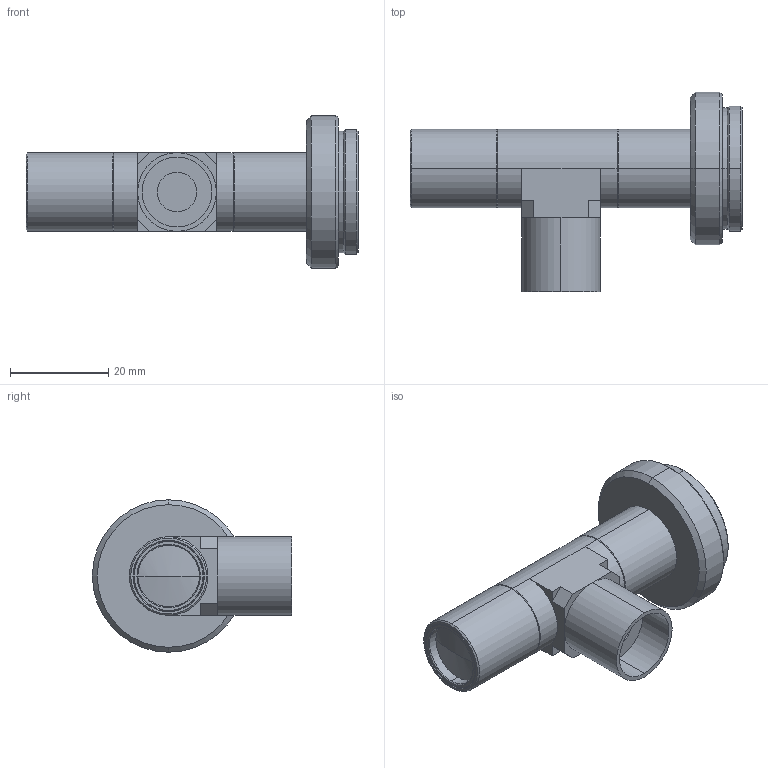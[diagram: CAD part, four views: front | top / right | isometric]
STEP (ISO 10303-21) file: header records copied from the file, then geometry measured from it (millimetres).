
FILE_DESCRIPTION (( 'STEP AP203' ), '1' );
FILE_NAME ('VS-TC2-65CO.STEP', '2016-07-25T00:18:32', ( 'miura_vst' ), ( '' ), 'SwSTEP 2.0', 'SolidWorks 2016', '' );
FILE_SCHEMA (( 'CONFIG_CONTROL_DESIGN' ));
Length unit declared in the file: millimetre
Products named in the file (1): VS-TC2-65CO
Bounding box: 67.5 x 40.5 x 31 mm (x, y, z)
Volume: 18726.7 mm3; surface area: 7262.9 mm2
Topology: 1 solids, 1 shells, 99 faces, 210 edges, 124 vertices
Faces by surface type: cone 38, cylinder 29, plane 28, sphere 4
Entity records: 2721 total; most frequent: DIRECTION 514, CARTESIAN_POINT 434, ORIENTED_EDGE 420, EDGE_CURVE 210, AXIS2_PLACEMENT_3D 204, VERTEX_POINT 124, EDGE_LOOP 110, VECTOR 106
